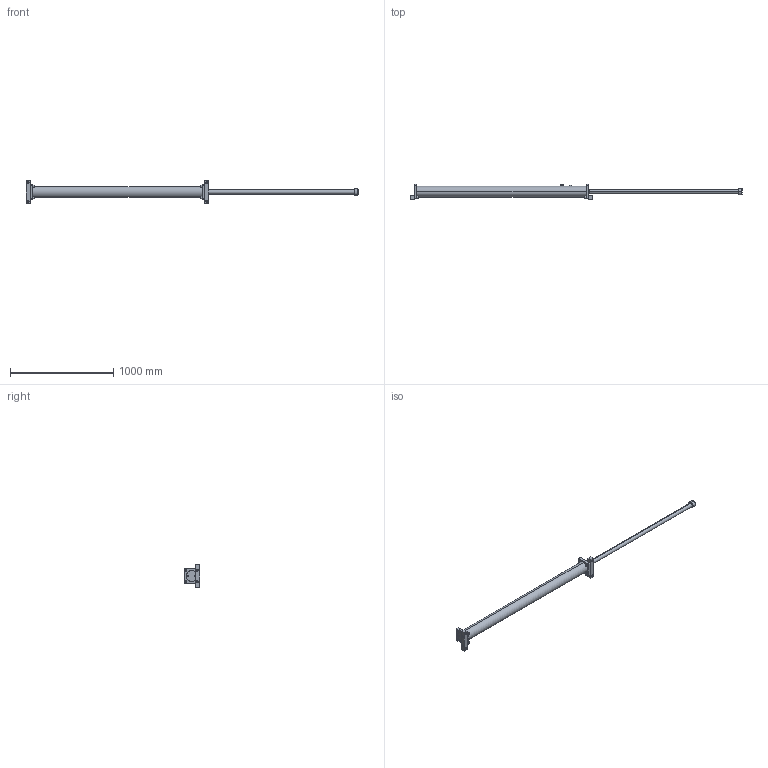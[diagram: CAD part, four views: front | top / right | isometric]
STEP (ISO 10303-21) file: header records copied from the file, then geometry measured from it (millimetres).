
FILE_DESCRIPTION (( 'STEP AP214' ), '1' );
FILE_NAME ('LDD2.0X56.STEP', '2019-01-16T06:45:25', ( 'user' ), ( 'Microsoft' ), 'SwSTEP 2.0', 'SolidWorks 2016', '' );
FILE_SCHEMA (( 'AUTOMOTIVE_DESIGN' ));
Length unit declared in the file: inch
Products named in the file (1): LDD2.0X56
Bounding box: 3211 x 145.5 x 220 mm (x, y, z)
Surface area: 964976.9 mm2 (no closed solid volume)
Topology: 0 solids, 27 shells, 234 faces, 652 edges, 446 vertices
Faces by surface type: plane 90, cylinder 66, cone 56, bspline 22
Entity records: 13150 total; most frequent: CARTESIAN_POINT 7236, DIRECTION 1226, ORIENTED_EDGE 1108, EDGE_CURVE 652, AXIS2_PLACEMENT_3D 467, VERTEX_POINT 446, LINE 292, VECTOR 292
